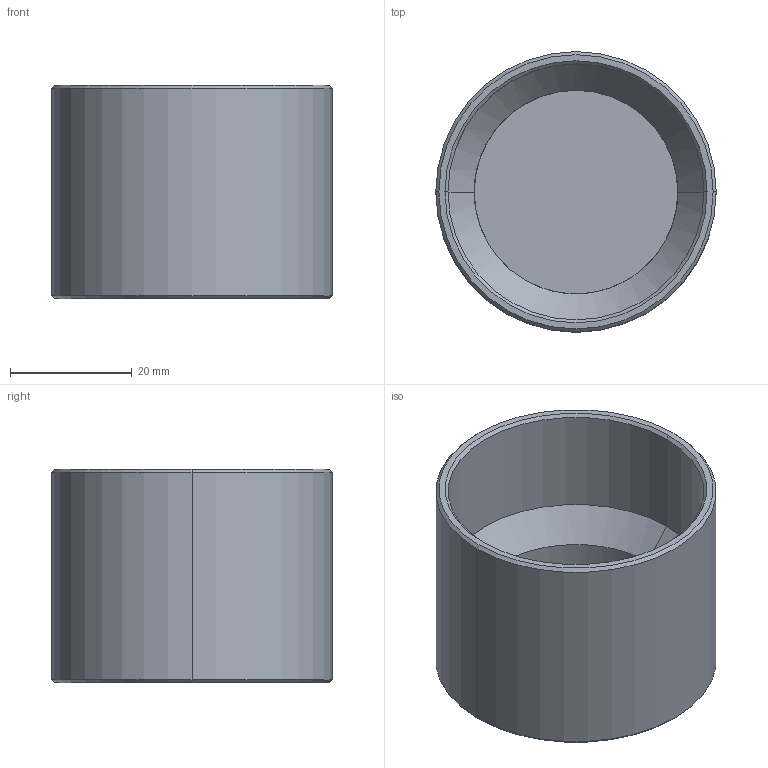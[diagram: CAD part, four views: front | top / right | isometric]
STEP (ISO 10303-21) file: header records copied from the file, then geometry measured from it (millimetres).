
FILE_DESCRIPTION (( 'STEP AP214' ), '1' );
FILE_NAME ('Êîëïàê.STEP', '2021-12-12T12:09:38', ( '' ), ( '' ), 'SwSTEP 2.0', 'SolidWorks 2018', '' );
FILE_SCHEMA (( 'AUTOMOTIVE_DESIGN' ));
Length unit declared in the file: millimetre
Products named in the file (1): 扻錝魛
Bounding box: 46 x 46 x 35 mm (x, y, z)
Volume: 18825.9 mm3; surface area: 12053.1 mm2
Topology: 1 solids, 1 shells, 25 faces, 48 edges, 26 vertices
Faces by surface type: cone 10, cylinder 8, torus 4, plane 3
Entity records: 744 total; most frequent: CARTESIAN_POINT 166, DIRECTION 126, ORIENTED_EDGE 96, AXIS2_PLACEMENT_3D 54, EDGE_CURVE 48, CIRCLE 28, EDGE_LOOP 26, VERTEX_POINT 26
